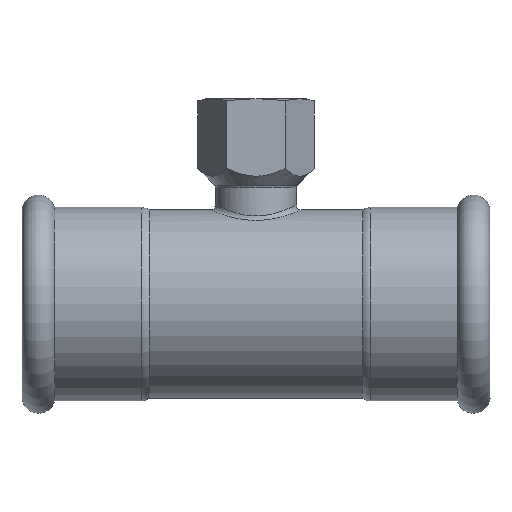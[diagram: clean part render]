
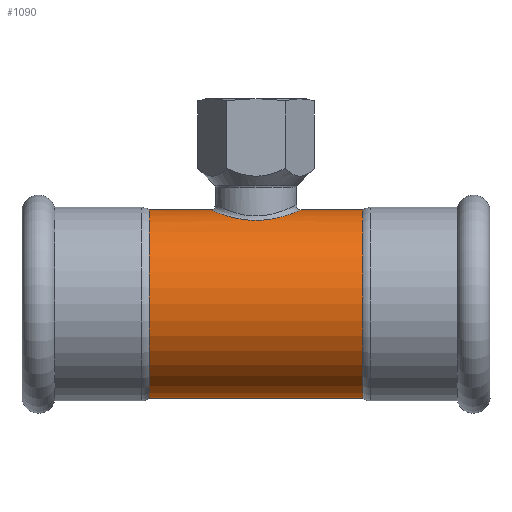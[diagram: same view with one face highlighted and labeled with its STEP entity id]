
A CAD part, front view. The second image highlights one B-rep face of the part: STEP entity #1090.
In plain terms, the highlighted cylindrical face has radius 28 mm (diameter 56 mm), a full revolution.
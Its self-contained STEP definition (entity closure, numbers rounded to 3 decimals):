
#19=B_SPLINE_CURVE_WITH_KNOTS('',3,(#2180,#2181,#2182,#2183,#2184,#2185,
#2186,#2187,#2188,#2189,#2190,#2191,#2192,#2193,#2194,#2195,#2196,#2197),
 .UNSPECIFIED.,.T.,.F.,(4,1,1,1,1,1,1,1,1,1,1,1,1,1,1,4),(-7.337,
-6.813,-6.289,-5.59,-5.241,
-4.542,-4.193,-3.843,-3.494,
-3.144,-2.795,-2.096,-1.572,
-1.048,-0.524,0.),.UNSPECIFIED.);
#55=FACE_BOUND('',#284,.T.);
#122=LINE('',#2209,#156);
#156=VECTOR('',#1564,28.);
#179=CYLINDRICAL_SURFACE('',#1244,28.);
#225=FACE_OUTER_BOUND('',#283,.T.);
#283=EDGE_LOOP('',(#935,#936,#937,#938,#939,#940,#941,#942));
#284=EDGE_LOOP('',(#943));
#379=CIRCLE('',#1245,28.);
#380=CIRCLE('',#1246,28.);
#381=CIRCLE('',#1247,28.);
#382=CIRCLE('',#1248,28.);
#383=CIRCLE('',#1249,28.);
#384=CIRCLE('',#1250,28.);
#500=VERTEX_POINT('',#2154);
#504=VERTEX_POINT('',#2203);
#505=VERTEX_POINT('',#2204);
#506=VERTEX_POINT('',#2206);
#507=VERTEX_POINT('',#2208);
#508=VERTEX_POINT('',#2210);
#509=VERTEX_POINT('',#2212);
#658=EDGE_CURVE('',#500,#500,#19,.T.);
#661=EDGE_CURVE('',#504,#505,#379,.T.);
#662=EDGE_CURVE('',#506,#504,#380,.T.);
#663=EDGE_CURVE('',#506,#507,#122,.T.);
#664=EDGE_CURVE('',#507,#508,#381,.T.);
#665=EDGE_CURVE('',#508,#509,#382,.T.);
#666=EDGE_CURVE('',#509,#507,#383,.T.);
#667=EDGE_CURVE('',#505,#506,#384,.T.);
#935=ORIENTED_EDGE('',*,*,#661,.F.);
#936=ORIENTED_EDGE('',*,*,#662,.F.);
#937=ORIENTED_EDGE('',*,*,#663,.T.);
#938=ORIENTED_EDGE('',*,*,#664,.T.);
#939=ORIENTED_EDGE('',*,*,#665,.T.);
#940=ORIENTED_EDGE('',*,*,#666,.T.);
#941=ORIENTED_EDGE('',*,*,#663,.F.);
#942=ORIENTED_EDGE('',*,*,#667,.F.);
#943=ORIENTED_EDGE('',*,*,#658,.F.);
#1090=ADVANCED_FACE('',(#225,#55),#179,.T.);
#1244=AXIS2_PLACEMENT_3D('',#2202,#1558,#1559);
#1245=AXIS2_PLACEMENT_3D('',#2205,#1560,#1561);
#1246=AXIS2_PLACEMENT_3D('',#2207,#1562,#1563);
#1247=AXIS2_PLACEMENT_3D('',#2211,#1565,#1566);
#1248=AXIS2_PLACEMENT_3D('',#2213,#1567,#1568);
#1249=AXIS2_PLACEMENT_3D('',#2214,#1569,#1570);
#1250=AXIS2_PLACEMENT_3D('',#2215,#1571,#1572);
#1558=DIRECTION('center_axis',(1.,0.,0.));
#1559=DIRECTION('ref_axis',(0.,1.,0.));
#1560=DIRECTION('center_axis',(1.,0.,0.));
#1561=DIRECTION('ref_axis',(0.,1.,0.));
#1562=DIRECTION('center_axis',(1.,0.,0.));
#1563=DIRECTION('ref_axis',(0.,1.,0.));
#1564=DIRECTION('',(-1.,0.,0.));
#1565=DIRECTION('center_axis',(1.,0.,0.));
#1566=DIRECTION('ref_axis',(0.,1.,0.));
#1567=DIRECTION('center_axis',(1.,0.,0.));
#1568=DIRECTION('ref_axis',(0.,1.,0.));
#1569=DIRECTION('center_axis',(1.,0.,0.));
#1570=DIRECTION('ref_axis',(0.,1.,0.));
#1571=DIRECTION('center_axis',(1.,0.,0.));
#1572=DIRECTION('ref_axis',(0.,1.,0.));
#2154=CARTESIAN_POINT('',(0.,12.814,24.896));
#2180=CARTESIAN_POINT('Ctrl Pts',(0.,12.814,
24.896));
#2181=CARTESIAN_POINT('Ctrl Pts',(-2.049,12.814,24.896));
#2182=CARTESIAN_POINT('Ctrl Pts',(-6.119,11.895,25.386));
#2183=CARTESIAN_POINT('Ctrl Pts',(-11.409,7.894,27.065));
#2184=CARTESIAN_POINT('Ctrl Pts',(-13.782,2.319,28.129));
#2185=CARTESIAN_POINT('Ctrl Pts',(-13.245,-4.269,27.888));
#2186=CARTESIAN_POINT('Ctrl Pts',(-10.423,-8.814,26.687));
#2187=CARTESIAN_POINT('Ctrl Pts',(-5.996,-11.691,25.461));
#2188=CARTESIAN_POINT('Ctrl Pts',(-2.08,-12.861,24.873));
#2189=CARTESIAN_POINT('Ctrl Pts',(2.08,-12.863,24.871));
#2190=CARTESIAN_POINT('Ctrl Pts',(5.997,-11.688,25.463));
#2191=CARTESIAN_POINT('Ctrl Pts',(10.418,-8.82,26.684));
#2192=CARTESIAN_POINT('Ctrl Pts',(13.61,-3.69,28.05));
#2193=CARTESIAN_POINT('Ctrl Pts',(13.612,3.017,28.043));
#2194=CARTESIAN_POINT('Ctrl Pts',(10.87,8.284,26.887));
#2195=CARTESIAN_POINT('Ctrl Pts',(6.125,11.901,25.393));
#2196=CARTESIAN_POINT('Ctrl Pts',(2.049,12.814,24.896));
#2197=CARTESIAN_POINT('Ctrl Pts',(0.,12.814,
24.896));
#2202=CARTESIAN_POINT('Origin',(26.817,0.,0.));
#2203=CARTESIAN_POINT('',(31.735,28.,0.));
#2204=CARTESIAN_POINT('',(31.735,0.,28.));
#2205=CARTESIAN_POINT('Origin',(31.735,0.,0.));
#2206=CARTESIAN_POINT('',(31.735,-28.,0.));
#2207=CARTESIAN_POINT('Origin',(31.735,0.,0.));
#2208=CARTESIAN_POINT('',(-31.735,-28.,0.));
#2209=CARTESIAN_POINT('',(26.817,-28.,0.));
#2210=CARTESIAN_POINT('',(-31.735,28.,0.));
#2211=CARTESIAN_POINT('Origin',(-31.735,0.,0.));
#2212=CARTESIAN_POINT('',(-31.735,0.,28.));
#2213=CARTESIAN_POINT('Origin',(-31.735,0.,0.));
#2214=CARTESIAN_POINT('Origin',(-31.735,0.,0.));
#2215=CARTESIAN_POINT('Origin',(31.735,0.,0.));
